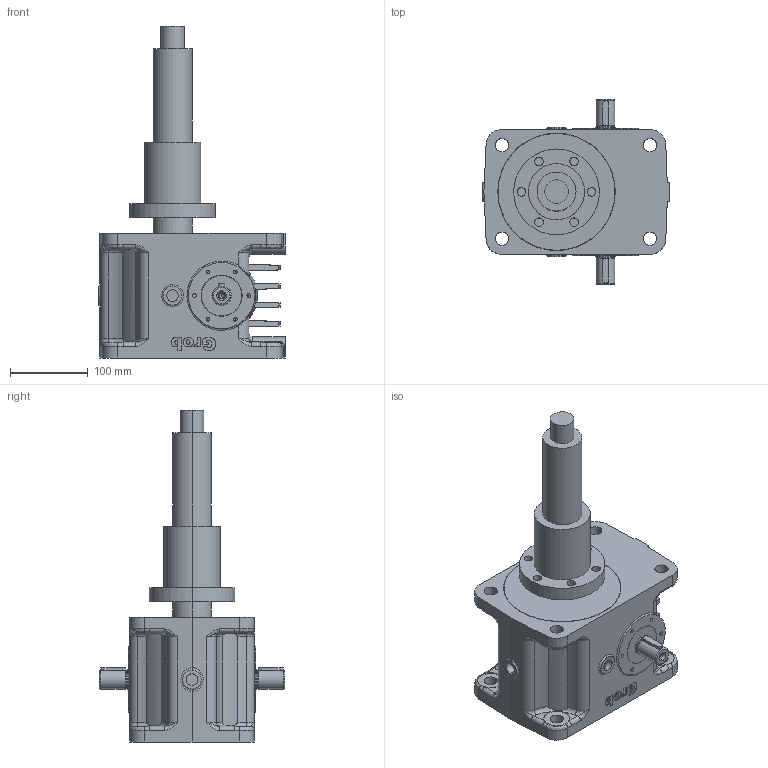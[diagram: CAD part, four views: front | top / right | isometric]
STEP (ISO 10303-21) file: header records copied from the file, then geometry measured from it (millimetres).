
FILE_DESCRIPTION(('STEP AP203'),'1');
FILE_NAME('hmc_5-lmn-kd-1f-z-0100-0237-tr50x9-bpos0.stp','2025-08-19T11:40:30',('TraceParts'),('TraceParts S.A.'),'Spatial InterOp 3D',' ',' ');
FILE_SCHEMA(('CONFIG_CONTROL_DESIGN'));
Length unit declared in the file: millimetre
Products named in the file (1): 1
Bounding box: 239 x 238 x 426 mm (x, y, z)
Volume: 5582075.9 mm3; surface area: 316261.8 mm2
Topology: 3 solids, 3 shells, 533 faces, 1342 edges, 824 vertices
Faces by surface type: cylinder 204, plane 139, bspline 128, cone 50, torus 12
Entity records: 22247 total; most frequent: CARTESIAN_POINT 10340, ORIENTED_EDGE 2610, DIRECTION 2200, EDGE_CURVE 1305, AXIS2_PLACEMENT_3D 825, VERTEX_POINT 824, EDGE_LOOP 611, LINE 550
